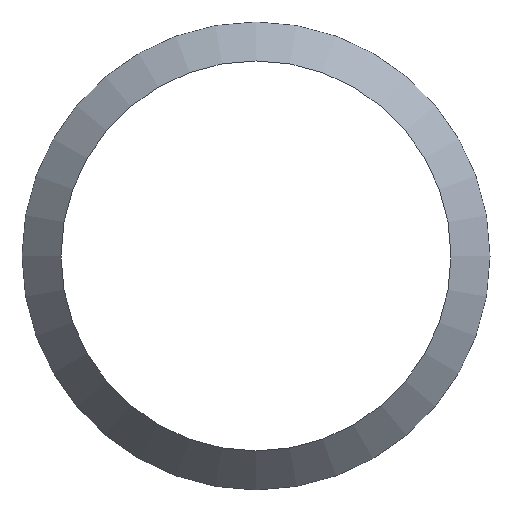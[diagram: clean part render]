
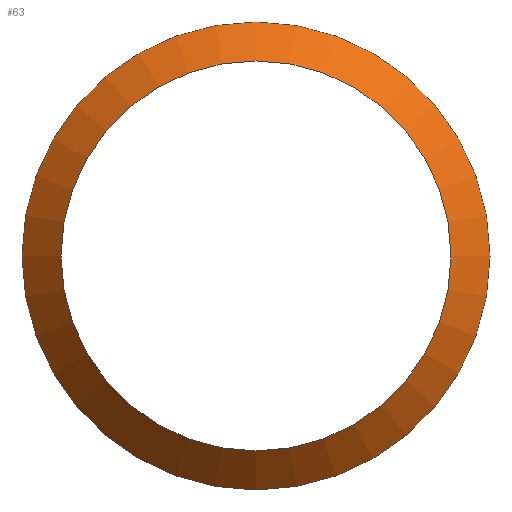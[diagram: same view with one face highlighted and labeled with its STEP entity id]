
A CAD part, top view. The second image highlights one B-rep face of the part: STEP entity #63.
In plain terms, the highlighted conical face has half-angle 45 degrees and reference radius 10 mm.
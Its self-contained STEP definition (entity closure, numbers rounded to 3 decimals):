
#1=CARTESIAN_POINT('',(0.,0.,0.));
#2=CARTESIAN_POINT('',(2.,0.,0.));
#3=CARTESIAN_POINT('',(0.,0.,10.));
#4=CARTESIAN_POINT('',(0.,0.,-10.));
#5=CARTESIAN_POINT('',(2.,0.,12.));
#10=DIRECTION('',(1.,0.,0.));
#11=DIRECTION('',(0.,0.,-1.));
#14=DIRECTION('',(-1.,0.,0.));
#12=AXIS2_PLACEMENT_3D('',#1,#10,#11);
#13=AXIS2_PLACEMENT_3D('',#2,#14,#11);
#20=VERTEX_POINT('',#3);
#21=VERTEX_POINT('',#4);
#22=VERTEX_POINT('',#5);
#30=CIRCLE('',#12,10.);
#31=CIRCLE('',#13,12.);
#32=DIRECTION('',(2.,0.,2.));
#33=VECTOR('',#32,1.);
#34=LINE('',#3,#33);
#40=EDGE_CURVE('',#20,#21,#30,.T.);
#41=EDGE_CURVE('',#21,#20,#30,.T.);
#42=EDGE_CURVE('',#20,#22,#34,.T.);
#43=EDGE_CURVE('',#22,#22,#31,.T.);
#50=ORIENTED_EDGE('',*,*,#41,.F.);
#51=ORIENTED_EDGE('',*,*,#40,.F.);
#52=ORIENTED_EDGE('',*,*,#42,.T.);
#53=ORIENTED_EDGE('',*,*,#43,.F.);
#54=ORIENTED_EDGE('',*,*,#42,.F.);
#60=EDGE_LOOP('',(#50,#51,#52,#53,#54));
#61=FACE_OUTER_BOUND('',#60,.T.);
#62=CONICAL_SURFACE('',#12,10.,0.785);
#63=ADVANCED_FACE('',(#61),#62,.T.);
